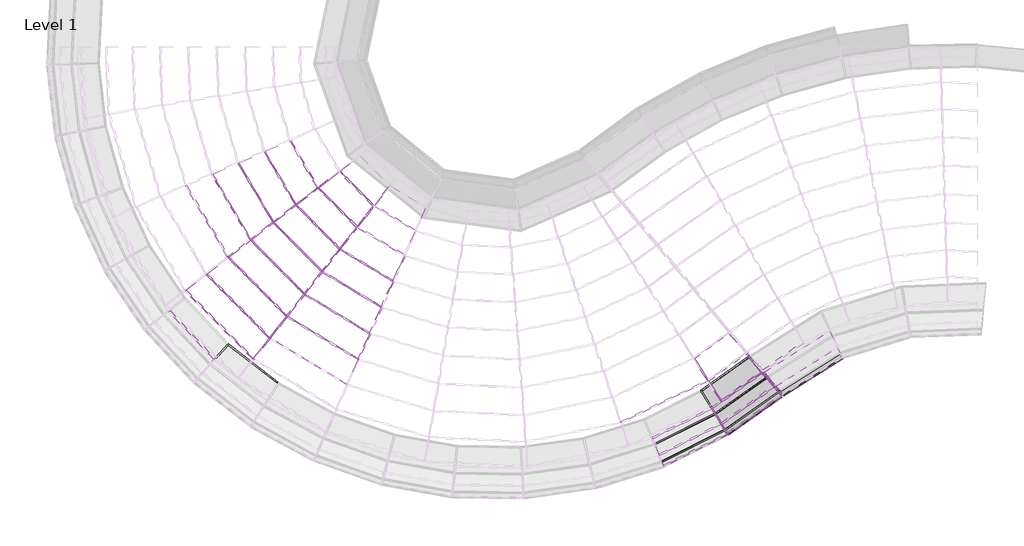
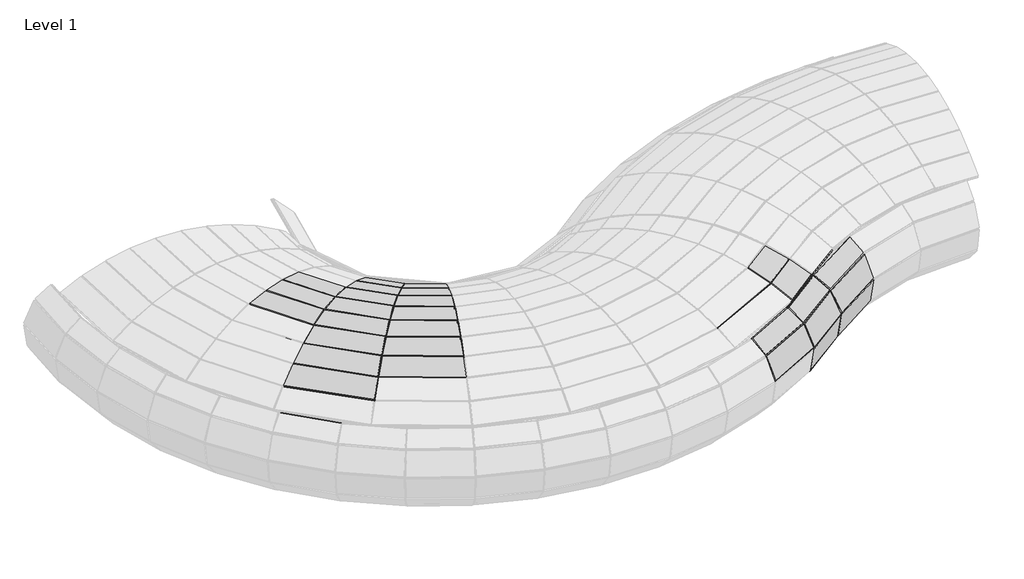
# One storey, part 4 of 23: 67 members, 30 plates.
"""IFC4 building model written with IfcOpenShell, lengths in millimetres."""

from ifc_helpers import new_model, si_unit, origin, place, context, project, spatial, transform, mapped, element, save
from components import member_d6b8231b, member_8c9da58c, member_391bee44, member_01ebdf2a, member_0cc87893, member_f8d2dede, member_1517f304, member_58eada01, member_30d53926, member_0cd36c09, member_e4cc2466, member_1b20e6ad, member_6c4aaba8, member_c876edb5, member_782630c7, member_0ea93e7c, member_01d9c279, member_398607d0, member_12c77cbe, member_5ccaa950, member_f3e77526, member_a8f221fd, member_9c203333, member_0c6c8d0c, member_86c07ba8, member_5c79e99c, member_0e8a41c0, member_5e0dc5e0, member_f532ae18, member_f7f5578b, member_ff5bcfe9, member_30a298c8, member_4c50ae0e, member_afb76c1e, member_c358399a, member_0167d042, member_de981218, member_5080b2ef, system_panel_glazed_7061526a, system_panel_glazed_17b066a7, system_panel_glazed_39e9cbfb, system_panel_glazed_65729b9c, system_panel_glazed_185472ef, system_panel_glazed_5abcd2ca, system_panel_glazed_d90a1b68, system_panel_glazed_7d733e69, system_panel_glazed_1f33159c, system_panel_glazed_b4bd1deb, system_panel_glazed_ffd0fcf6, system_panel_glazed_fd5b3178, system_panel_glazed_7646b435, system_panel_glazed_135ae039, system_panel_glazed_f8bcb114, system_panel_glazed_baaa3bb5, system_panel_glazed_aab04364, system_panel_glazed_96e6ccbe, system_panel_glazed_9094d4f4, system_panel_glazed_4ac93396

model = new_model("IFC4")

# Units and contexts
model_context = context("Model", 3, world=origin())
ifc_project = project(units=[si_unit("LENGTHUNIT", "METRE", prefix="MILLI")], contexts=[model_context])

# Site, building, storey
site = spatial("IfcSite", under=ifc_project)
building = spatial("IfcBuilding", under=site)
storey = spatial("IfcBuildingStorey", under=building, Name="Level 1", Elevation=0.0)

# Members
placement = place(None, origin())
member_shape = member_d6b8231b(model_context)
element("IfcMember", 1, ObjectType="Rectangular Mullion : 1\" Square", at=placement, inside=storey, context=model_context, shape_type="MappedRepresentation", body=[
    mapped(member_shape, transform((-5541.8903842, -8587.5198081, 0.0), x_axis=(0.8561160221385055, 0.5167836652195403, 0.0), y_axis=(0.14485326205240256, -0.23996733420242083, -0.9599131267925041), z_axis=(-0.49606742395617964, 0.8217970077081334, -0.280297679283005))),
])
element("IfcMember", 2, ObjectType="Rectangular Mullion : 1\" Square", at=placement, inside=storey, context=model_context, shape_type="MappedRepresentation", body=[
    mapped(member_shape, transform((-15607.0796623, -7600.7604451, 0.0), x_axis=(0.73945297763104, -0.6732082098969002, 0.0), y_axis=(-0.18869869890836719, -0.20726695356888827, -0.9599131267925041), z_axis=(0.6462213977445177, 0.7098106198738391, -0.2802976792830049))),
])
member_2_shape = member_8c9da58c(model_context)
element("IfcMember", 3, ObjectType="Rectangular Mullion : 1\" Square", at=placement, inside=storey, context=model_context, shape_type="MappedRepresentation", body=[
    mapped(member_2_shape, transform((-5239.4876826, -9088.487264, 170.8694653), x_axis=(0.8561160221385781, 0.51678366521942, 0.0), y_axis=(0.389037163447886, -0.6444881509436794, -0.6582439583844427), z_axis=(-0.3401697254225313, 0.5635331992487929, -0.7528046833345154))),
])
element("IfcMember", 4, ObjectType="Rectangular Mullion : 1\" Square", at=placement, inside=storey, context=model_context, shape_type="MappedRepresentation", body=[
    mapped(member_2_shape, transform((-5032.120218, -9432.0171023, 629.7792003), x_axis=(0.8561160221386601, 0.5167836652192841, 0.0), y_axis=(0.5109594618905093, -0.8464675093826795, -0.14971033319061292), z_axis=(-0.07736785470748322, 0.12816941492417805, -0.9887299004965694))),
])
member_3_shape = member_391bee44(model_context)
element("IfcMember", 5, ObjectType="Rectangular Mullion : 1\" Square", at=placement, inside=storey, context=model_context, shape_type="MappedRepresentation", body=[
    mapped(member_3_shape, transform((-4984.9567737, -9510.1491776, 1232.5089476), x_axis=(0.8561160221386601, 0.5167836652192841, 0.0), y_axis=(0.4723039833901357, -0.782429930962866, 0.40587233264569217), z_axis=(0.20974819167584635, -0.3474738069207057, -0.9139297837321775))),
])
member_4_shape = member_01ebdf2a(model_context)
element("IfcMember", 6, ObjectType="Rectangular Mullion : 1\" Square", at=placement, inside=storey, context=model_context, shape_type="MappedRepresentation", body=[
    mapped(member_4_shape, transform((-5112.8192714, -9298.3291449, 1789.6405438), x_axis=(0.8561160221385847, 0.5167836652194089, 0.0), y_axis=(0.30793072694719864, -0.5101253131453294, 0.8030883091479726), z_axis=(0.41502291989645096, -0.6875367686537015, -0.5958600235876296))),
])
member_5_shape = member_0cc87893(model_context)
element("IfcMember", 7, ObjectType="Rectangular Mullion : 1\" Square", at=placement, inside=storey, context=model_context, shape_type="MappedRepresentation", body=[
    mapped(member_5_shape, transform((-4236.0060384, -8187.1375727, 2085.6089632), x_axis=(-0.7968732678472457, -0.6008891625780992, -0.06265149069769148), y_axis=(0.31932702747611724, -0.5069562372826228, 0.8006407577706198), z_axis=(-0.5128579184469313, 0.6180029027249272, 0.5958600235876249))),
])
member_6_shape = member_f8d2dede(model_context)
element("IfcMember", 8, ObjectType="Rectangular Mullion : 1\" Square", at=placement, inside=storey, context=model_context, shape_type="MappedRepresentation", body=[
    mapped(member_6_shape, transform((-4137.7938837, -8305.4849639, 170.8694653), x_axis=(-0.7755966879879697, -0.6302403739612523, 0.03531074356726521), y_axis=(0.15057140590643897, -0.2390436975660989, -0.9592634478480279), z_axis=(0.6130073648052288, -0.7386847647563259, 0.28029767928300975))),
])
member_7_shape = member_1517f304(model_context)
element("IfcMember", 9, ObjectType="Rectangular Mullion : 1\" Square", at=placement, inside=storey, context=model_context, shape_type="MappedRepresentation", body=[
    mapped(member_7_shape, transform((-3881.5428644, -8614.2719944, 629.7792003), x_axis=(-0.8130968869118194, -0.5785149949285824, 0.06475996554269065), y_axis=(0.4027052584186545, -0.6393255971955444, -0.6550505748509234), z_axis=(0.4203592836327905, -0.5065404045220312, 0.7528046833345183))),
])
member_8_shape = member_58eada01(model_context)
element("IfcMember", 10, ObjectType="Rectangular Mullion : 1\" Square", at=placement, inside=storey, context=model_context, shape_type="MappedRepresentation", body=[
    mapped(member_8_shape, transform((-3823.2613945, -8684.5022011, 1232.5089476), x_axis=(-0.8444299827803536, -0.5353189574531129, 0.01927739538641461), y_axis=(0.5270649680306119, -0.8367562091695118, -0.1484640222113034), z_axis=(0.09560608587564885, -0.11520703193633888, 0.9887299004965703))),
])
member_9_shape = member_30d53926(model_context)
element("IfcMember", 11, ObjectType="Rectangular Mullion : 1\" Square", at=placement, inside=storey, context=model_context, shape_type="MappedRepresentation", body=[
    mapped(member_9_shape, transform((-3981.2654257, -8494.1045365, 1789.6405438), x_axis=(-0.8336003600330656, -0.5502464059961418, -0.04836664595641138), y_axis=(0.487780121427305, -0.774388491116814, 0.402980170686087), z_axis=(-0.25919296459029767, 0.3123321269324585, 0.9139297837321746))),
])
member_10_shape = member_0cd36c09(model_context)
element("IfcMember", 12, ObjectType="Rectangular Mullion : 1\" Square", at=placement, inside=storey, context=model_context, shape_type="MappedRepresentation", body=[
    mapped(member_10_shape, transform((-5393.2576617, -8373.1344113, 2378.3537392), x_axis=(0.8410448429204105, 0.5409654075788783, 0.0), y_axis=(0.20144139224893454, -0.31318313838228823, 0.9280828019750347), z_axis=(0.5020606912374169, -0.7805592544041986, -0.3723738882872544))),
])
element("IfcMember", 13, ObjectType="Rectangular Mullion : 1\" Square", at=placement, inside=storey, context=model_context, shape_type="MappedRepresentation", body=[
    mapped(member_10_shape, transform((-14173.1925136, -4633.0303482, 2806.2019711), x_axis=(0.6108312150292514, -0.79176083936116, 0.0), y_axis=(0.16904323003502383, 0.13041423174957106, 0.9769424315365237), z_axis=(-0.7735047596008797, -0.5967469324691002, 0.213502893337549))),
])
element("IfcMember", 14, ObjectType="Rectangular Mullion : 1\" Square", at=placement, inside=storey, context=model_context, shape_type="MappedRepresentation", body=[
    mapped(member_10_shape, transform((-13701.6640122, -4269.2534182, 2676.0506073), x_axis=(0.6108312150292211, -0.7917608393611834, 0.0), y_axis=(0.25993569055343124, 0.20053635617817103, 0.9445732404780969), z_axis=(-0.7478761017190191, -0.5769748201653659, 0.3283007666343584))),
])
element("IfcMember", 15, ObjectType="Rectangular Mullion : 1\" Square", at=placement, inside=storey, context=model_context, shape_type="MappedRepresentation", body=[
    mapped(member_10_shape, transform((-13238.0015411, -5576.7055727, 2806.2019711), x_axis=(0.786212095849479, -0.617956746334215, 0.0), y_axis=(0.131935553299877, 0.16785855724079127, 0.9769424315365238), z_axis=(-0.6037081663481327, -0.7680839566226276, 0.21350289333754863))),
])
element("IfcMember", 16, ObjectType="Rectangular Mullion : 1\" Square", at=placement, inside=storey, context=model_context, shape_type="MappedRepresentation", body=[
    mapped(member_10_shape, transform((-12869.9810429, -5108.4815927, 2676.0506073), x_axis=(0.7862120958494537, -0.6179567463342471, 0.0), y_axis=(0.20287567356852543, 0.258114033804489, 0.9445732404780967), z_axis=(-0.5837054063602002, -0.7426349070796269, 0.3283007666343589))),
])
element("IfcMember", 17, ObjectType="Rectangular Mullion : 1\" Square", at=placement, inside=storey, context=model_context, shape_type="MappedRepresentation", body=[
    mapped(member_10_shape, transform((-12100.0944241, -6262.4697286, 2806.2019711), x_axis=(0.9136605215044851, -0.40647810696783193, 0.0), y_axis=(0.08678425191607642, 0.19506916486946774, 0.9769424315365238), z_axis=(-0.3971057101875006, -0.8925937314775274, 0.2135028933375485))),
])
element("IfcMember", 18, ObjectType="Rectangular Mullion : 1\" Square", at=placement, inside=storey, context=model_context, shape_type="MappedRepresentation", body=[
    mapped(member_10_shape, transform((-15613.899351, -5744.5133419, 2763.3769688), x_axis=(0.6108312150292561, -0.7917608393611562, 0.0), y_axis=(-0.11273888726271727, -0.08697630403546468, 0.9898106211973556), z_axis=(-0.7836932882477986, -0.6046072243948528, -0.1423900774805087))),
])
element("IfcMember", 19, ObjectType="Rectangular Mullion : 1\" Square", at=placement, inside=storey, context=model_context, shape_type="MappedRepresentation", body=[
    mapped(member_10_shape, transform((-15075.8944528, -7915.0142758, 2378.3537392), x_axis=(0.7862120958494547, -0.617956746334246, 0.0), y_axis=(-0.2301109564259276, -0.29276485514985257, 0.9280828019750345), z_axis=(-0.5735150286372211, -0.7296699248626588, -0.37237388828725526))),
])
element("IfcMember", 20, ObjectType="Rectangular Mullion : 1\" Square", at=placement, inside=storey, context=model_context, shape_type="MappedRepresentation", body=[
    mapped(member_10_shape, transform((-14726.2796914, -7470.2074896, 2605.3528615), x_axis=(0.7862120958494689, -0.617956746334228, 0.0), y_axis=(-0.160190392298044, -0.20380653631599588, 0.9658167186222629), z_axis=(-0.5968329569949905, -0.7593367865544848, -0.2592258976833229))),
])
element("IfcMember", 21, ObjectType="Rectangular Mullion : 1\" Square", at=placement, inside=storey, context=model_context, shape_type="MappedRepresentation", body=[
    mapped(member_10_shape, transform((-14362.4503208, -7007.3157845, 2763.3769688), x_axis=(0.7862120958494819, -0.6179567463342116, 0.0), y_axis=(-0.08799090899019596, -0.11194880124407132, 0.9898106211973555), z_axis=(-0.6116601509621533, -0.7782010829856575, -0.14239007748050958))),
])
element("IfcMember", 22, ObjectType="Rectangular Mullion : 1\" Square", at=placement, inside=storey, context=model_context, shape_type="MappedRepresentation", body=[
    mapped(member_10_shape, transform((-12839.7316464, -7924.9881242, 2763.3769688), x_axis=(0.9136605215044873, -0.4064781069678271, 0.0), y_axis=(-0.0578784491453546, -0.13009619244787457, 0.9898106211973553), z_axis=(-0.4023363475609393, -0.9043508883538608, -0.14239007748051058))),
])
element("IfcMember", 23, ObjectType="Rectangular Mullion : 1\" Square", at=placement, inside=storey, context=model_context, shape_type="MappedRepresentation", body=[
    mapped(member_10_shape, transform((-15136.1599225, -5375.9447779, 2850.17796), x_axis=(0.6108312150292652, -0.7917608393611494, 0.0), y_axis=(-0.018629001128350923, -0.014371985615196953, 0.9997231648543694), z_axis=(-0.7915416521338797, -0.6106621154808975, -0.023528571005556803))),
])
element("IfcMember", 24, ObjectType="Rectangular Mullion : 1\" Square", at=placement, inside=storey, context=model_context, shape_type="MappedRepresentation", body=[
    mapped(member_10_shape, transform((-13989.5822928, -6532.9244043, 2850.17796), x_axis=(0.7862120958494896, -0.6179567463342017, 0.0), y_axis=(-0.014539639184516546, -0.018498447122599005, 0.9997231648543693), z_axis=(-0.6177856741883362, -0.785994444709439, -0.023528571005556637))),
])
element("IfcMember", 25, ObjectType="Rectangular Mullion : 1\" Square", at=placement, inside=storey, context=model_context, shape_type="MappedRepresentation", body=[
    mapped(member_10_shape, transform((-12594.4674089, -7373.6958226, 2850.17796), x_axis=(0.9136605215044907, -0.40647810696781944, 0.0), y_axis=(-0.009563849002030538, -0.02149712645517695, 0.9997231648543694), z_axis=(-0.4063655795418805, -0.9134075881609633, -0.023528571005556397))),
])
element("IfcMember", 26, ObjectType="Rectangular Mullion : 1\" Square", at=placement, inside=storey, context=model_context, shape_type="MappedRepresentation", body=[
    mapped(member_10_shape, transform((-14653.6361314, -5003.6851523, 2864.5209769), x_axis=(0.610831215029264, -0.7917608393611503, 0.0), y_axis=(0.07574590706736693, 0.05843679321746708, 0.9954133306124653), z_axis=(-0.7881292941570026, -0.6080295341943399, 0.09566766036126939))),
])
element("IfcMember", 27, ObjectType="Rectangular Mullion : 1\" Square", at=placement, inside=storey, context=model_context, shape_type="MappedRepresentation", body=[
    mapped(member_10_shape, transform((-13612.9801458, -6053.7821909, 2864.5209769), x_axis=(0.7862120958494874, -0.6179567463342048, 0.0), y_axis=(0.05911847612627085, 0.07521507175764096, 0.995413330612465), z_axis=(-0.6151223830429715, -0.7826060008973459, 0.09566766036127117))),
])
element("IfcMember", 28, ObjectType="Rectangular Mullion : 1\" Square", at=placement, inside=storey, context=model_context, shape_type="MappedRepresentation", body=[
    mapped(member_10_shape, transform((-12346.7469516, -6816.8825569, 2864.5209769), x_axis=(0.9136605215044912, -0.40647810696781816, 0.0), y_axis=(0.038886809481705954, 0.08740776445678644, 0.995413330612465), z_axis=(-0.40461372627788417, -0.9094698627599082, 0.09566766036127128))),
])
member_11_shape = member_e4cc2466(model_context)
element("IfcMember", 29, ObjectType="Rectangular Mullion : 1\" Square", at=placement, inside=storey, context=model_context, shape_type="MappedRepresentation", body=[
    mapped(member_11_shape, transform((-5103.9991251, -8822.8478257, 2085.6089632), x_axis=(0.8410448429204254, 0.5409654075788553, 0.0), y_axis=(0.2597847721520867, -0.4038902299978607, 0.8771456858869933), z_axis=(0.4745054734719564, -0.7377188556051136, -0.4802243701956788))),
])
member_12_shape = member_1b20e6ad(model_context)
element("IfcMember", 30, ObjectType="Rectangular Mullion : 1\" Square", at=placement, inside=storey, context=model_context, shape_type="MappedRepresentation", body=[
    mapped(member_12_shape, transform((-4215.1839746, -8172.5910384, 2085.6089632), x_axis=(0.5019403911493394, -0.7184828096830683, -0.4814958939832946), y_axis=(0.27575183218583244, -0.39471410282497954, 0.8764483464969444), z_axis=(-0.8197662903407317, -0.5726982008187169, 0.0))),
])
member_13_shape = member_6c4aaba8(model_context)
element("IfcMember", 31, ObjectType="Rectangular Mullion : 1\" Square", at=placement, inside=storey, context=model_context, shape_type="MappedRepresentation", body=[
    mapped(member_13_shape, transform((-15084.8340664, -7905.9935602, 2378.3537392), x_axis=(0.6432189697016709, 0.6374360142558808, 0.42419887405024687), y_axis=(-0.30130530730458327, -0.2985963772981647, 0.9055690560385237), z_axis=(0.7039065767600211, -0.7102925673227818, 0.0))),
])
element("IfcMember", 32, ObjectType="Rectangular Mullion : 1\" Square", at=placement, inside=storey, context=model_context, shape_type="MappedRepresentation", body=[
    mapped(member_13_shape, transform((-5404.7053993, -8378.6334389, 2378.3537392), x_axis=(-0.3921062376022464, 0.8162769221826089, 0.4241988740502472), y_axis=(0.18367569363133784, -0.382371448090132, 0.9055690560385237), z_axis=(0.9013966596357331, 0.43299429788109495, 0.0))),
])
member_14_shape = member_c876edb5(model_context)
element("IfcMember", 33, ObjectType="Rectangular Mullion : 1\" Square", at=placement, inside=storey, context=model_context, shape_type="MappedRepresentation", body=[
    mapped(member_14_shape, transform((-13708.1208201, -4258.3172566, 2676.0506073), x_axis=(0.8291768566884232, 0.48955345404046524, -0.2698205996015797), y_axis=(0.23234658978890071, 0.13717951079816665, 0.9629106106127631), z_axis=(0.5084100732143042, -0.8611150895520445, 0.0))),
])
element("IfcMember", 34, ObjectType="Rectangular Mullion : 1\" Square", at=placement, inside=storey, context=model_context, shape_type="MappedRepresentation", body=[
    mapped(member_14_shape, transform((-12878.9206564, -5099.4608771, 2676.0506073), x_axis=(0.6839482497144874, 0.6777991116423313, -0.26982059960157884), y_axis=(0.19165156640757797, 0.18992849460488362, 0.9629106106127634), z_axis=(0.7039065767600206, -0.7102925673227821, 0.0))),
])
member_15_shape = member_782630c7(model_context)
element("IfcMember", 35, ObjectType="Rectangular Mullion : 1\" Square", at=placement, inside=storey, context=model_context, shape_type="MappedRepresentation", body=[
    mapped(member_15_shape, transform((-12523.0938407, -4646.7506378, 2475.91846), x_axis=(0.6564501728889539, 0.650548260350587, -0.3819163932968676), y_axis=(0.2712723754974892, 0.26883346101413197, 0.9241968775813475), z_axis=(0.7039065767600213, -0.7102925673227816, 0.0))),
])
member_16_shape = member_0ea93e7c(model_context)
element("IfcMember", 36, ObjectType="Rectangular Mullion : 1\" Square", at=placement, inside=storey, context=model_context, shape_type="MappedRepresentation", body=[
    mapped(member_16_shape, transform((-15620.3561589, -5733.5771802, 2763.3769688), x_axis=(0.8438153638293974, 0.498196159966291, 0.19943976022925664), y_axis=(-0.1717405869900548, -0.10139718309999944, 0.97991008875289), z_axis=(0.5084100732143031, -0.8611150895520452, 0.0))),
])
element("IfcMember", 37, ObjectType="Rectangular Mullion : 1\" Square", at=placement, inside=storey, context=model_context, shape_type="MappedRepresentation", body=[
    mapped(member_16_shape, transform((-14371.3899343, -6998.2950689, 2763.3769688), x_axis=(0.6960228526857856, 0.6897651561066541, 0.1994397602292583), y_axis=(-0.14166057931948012, -0.1403869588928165, 0.9799100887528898), z_axis=(0.7039065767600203, -0.7102925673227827, 0.0))),
])
element("IfcMember", 38, ObjectType="Rectangular Mullion : 1\" Square", at=placement, inside=storey, context=model_context, shape_type="MappedRepresentation", body=[
    mapped(member_16_shape, transform((-12850.6090502, -7918.4328144, 2763.3769688), x_axis=(0.505796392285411, 0.8392817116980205, 0.19943976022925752), y_axis=(-0.1029440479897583, -0.17081785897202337, 0.9799100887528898), z_axis=(0.8564884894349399, -0.516166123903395, 0.0))),
])
member_17_shape = member_01d9c279(model_context)
element("IfcMember", 39, ObjectType="Rectangular Mullion : 1\" Square", at=placement, inside=storey, context=model_context, shape_type="MappedRepresentation", body=[
    mapped(member_17_shape, transform((-15142.6167304, -5365.0086162, 2850.17796), x_axis=(0.8582013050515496, 0.5066897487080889, 0.08219500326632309), y_axis=(-0.07077935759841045, -0.04178876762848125, 0.9966162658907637), z_axis=(0.5084100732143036, -0.8611150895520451, 0.0))),
])
element("IfcMember", 40, ObjectType="Rectangular Mullion : 1\" Square", at=placement, inside=storey, context=model_context, shape_type="MappedRepresentation", body=[
    mapped(member_17_shape, transform((-13998.5219063, -6523.9036887, 2850.17796), x_axis=(0.7078891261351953, 0.7015247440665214, 0.08219500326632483), y_axis=(-0.05838249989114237, -0.0578576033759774, 0.9966162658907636), z_axis=(0.7039065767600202, -0.7102925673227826, 0.0))),
])
element("IfcMember", 41, ObjectType="Rectangular Mullion : 1\" Square", at=placement, inside=storey, context=model_context, shape_type="MappedRepresentation", body=[
    mapped(member_17_shape, transform((-12605.3448127, -7367.1405129, 2850.17796), x_axis=(0.514419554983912, 0.8535903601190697, 0.08219500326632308), y_axis=(-0.04242627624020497, -0.07039907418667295, 0.9966162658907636), z_axis=(0.8564884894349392, -0.5161661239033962, 0.0))),
])
member_18_shape = member_398607d0(model_context)
element("IfcMember", 42, ObjectType="Rectangular Mullion : 1\" Square", at=placement, inside=storey, context=model_context, shape_type="MappedRepresentation", body=[
    mapped(member_18_shape, transform((-14660.0929393, -4992.7489906, 2864.5209769), x_axis=(0.8605516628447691, 0.5080774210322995, -0.03616863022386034), y_axis=(0.03114535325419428, 0.018388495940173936, 0.9993457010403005), z_axis=(0.5084100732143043, -0.8611150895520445, 0.0))),
])
element("IfcMember", 43, ObjectType="Rectangular Mullion : 1\" Square", at=placement, inside=storey, context=model_context, shape_type="MappedRepresentation", body=[
    mapped(member_18_shape, transform((-13621.9197593, -6044.7614752, 2864.5209769), x_axis=(0.7098278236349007, 0.7034460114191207, -0.03616863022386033), y_axis=(0.025690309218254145, 0.02545933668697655, 0.9993457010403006), z_axis=(0.7039065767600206, -0.7102925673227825, 0.0))),
])
element("IfcMember", 44, ObjectType="Rectangular Mullion : 1\" Square", at=placement, inside=storey, context=model_context, shape_type="MappedRepresentation", body=[
    mapped(member_18_shape, transform((-12357.6243554, -6810.3272471, 2864.5209769), x_axis=(0.5158283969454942, 0.8559280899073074, -0.03616863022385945), y_axis=(0.01866902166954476, 0.030978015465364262, 0.9993457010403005), z_axis=(0.8564884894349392, -0.5161661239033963, 0.0))),
])
member_19_shape = member_12c77cbe(model_context)
element("IfcMember", 45, ObjectType="Rectangular Mullion : 1\" Square", at=placement, inside=storey, context=model_context, shape_type="MappedRepresentation", body=[
    mapped(member_19_shape, transform((-14735.2193049, -7461.186774, 2605.3528615), x_axis=(0.674376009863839, 0.6683129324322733, 0.31396627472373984), y_axis=(-0.22300791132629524, -0.22100292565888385, 0.9494341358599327), z_axis=(0.7039065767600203, -0.7102925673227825, 0.0))),
])
member_20_shape = member_5ccaa950(model_context)
element("IfcMember", 46, ObjectType="Rectangular Mullion : 1\" Square", at=placement, inside=storey, context=model_context, shape_type="MappedRepresentation", body=[
    mapped(member_20_shape, transform((-14179.6493216, -4622.0941866, 2806.2019711), x_axis=(0.8508370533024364, 0.5023418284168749, -0.15404218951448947), y_axis=(0.1326480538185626, 0.07831660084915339, 0.9880642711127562), z_axis=(0.5084100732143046, -0.8611150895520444, 0.0))),
])
element("IfcMember", 47, ObjectType="Rectangular Mullion : 1\" Square", at=placement, inside=storey, context=model_context, shape_type="MappedRepresentation", body=[
    mapped(member_20_shape, transform((-13246.9411546, -5567.6848571, 2806.2019711), x_axis=(0.7018147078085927, 0.6955049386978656, -0.15404218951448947), y_axis=(0.10941502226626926, 0.10843131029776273, 0.9880642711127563), z_axis=(0.7039065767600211, -0.7102925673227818, 0.0))),
])
element("IfcMember", 48, ObjectType="Rectangular Mullion : 1\" Square", at=placement, inside=storey, context=model_context, shape_type="MappedRepresentation", body=[
    mapped(member_20_shape, transform((-12110.9718279, -6255.9144188, 2806.2019711), x_axis=(0.5100053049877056, 0.8462656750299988, -0.15404218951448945), y_axis=(0.07951135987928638, 0.1319353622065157, 0.9880642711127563), z_axis=(0.8564884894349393, -0.5161661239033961, 0.0))),
])
member_21_shape = member_f3e77526(model_context)
element("IfcMember", 49, ObjectType="Rectangular Mullion : 1\" Square", at=placement, inside=storey, context=model_context, shape_type="MappedRepresentation", body=[
    mapped(member_21_shape, transform((-5093.7531788, -8815.3437877, 2085.6089632), x_axis=(0.5180587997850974, -0.7073528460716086, -0.4809023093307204), y_axis=(0.28415032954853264, -0.3879763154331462, 0.8767741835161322), z_axis=(-0.8067674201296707, -0.5908691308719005, 0.0))),
])
member_22_shape = member_a8f221fd(model_context)
element("IfcMember", 50, ObjectType="Rectangular Mullion : 1\" Square", at=placement, inside=storey, context=model_context, shape_type="MappedRepresentation", body=[
    mapped(member_22_shape, transform((-4236.0060384, -8187.1375727, 2085.6089632), x_axis=(0.7781316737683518, 0.6275822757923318, 0.02552617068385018), y_axis=(0.28415032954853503, -0.38797631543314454, 0.8767741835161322), z_axis=(0.5601514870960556, -0.6749924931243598, -0.48022437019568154))),
])
member_23_shape = member_9c203333(model_context)
element("IfcMember", 51, ObjectType="Rectangular Mullion : 1\" Square", at=placement, inside=storey, context=model_context, shape_type="MappedRepresentation", body=[
    mapped(member_23_shape, transform((-15597.0346036, -7608.5313392, 0.0), x_axis=(0.5872043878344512, 0.7590506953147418, -0.28112817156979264), y_axis=(-0.17201710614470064, -0.2223581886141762, -0.9596702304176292), z_axis=(-0.790949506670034, 0.6118814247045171, 0.0))),
])
member_24_shape = member_0c6c8d0c(model_context)
element("IfcMember", 52, ObjectType="Rectangular Mullion : 1\" Square", at=placement, inside=storey, context=model_context, shape_type="MappedRepresentation", body=[
    mapped(member_24_shape, transform((-5531.5385686, -8580.1625048, 0.0), x_axis=(-0.5559696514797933, 0.7822560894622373, -0.28102163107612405), y_axis=(0.16280010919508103, -0.22906174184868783, -0.9597014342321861), z_axis=(-0.8151035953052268, -0.579315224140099, 0.0))),
])
member_25_shape = member_86c07ba8(model_context)
element("IfcMember", 53, ObjectType="Rectangular Mullion : 1\" Square", at=placement, inside=storey, context=model_context, shape_type="MappedRepresentation", body=[
    mapped(member_25_shape, transform((-5250.8506518, -9094.1593827, 170.8694653), x_axis=(0.37696829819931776, -0.7551815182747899, 0.536279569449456), y_axis=(0.2395150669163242, -0.4798211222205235, -0.8440404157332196), z_axis=(0.8947219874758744, 0.4466235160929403, 0.0))),
])
member_26_shape = member_5c79e99c(model_context)
element("IfcMember", 54, ObjectType="Rectangular Mullion : 1\" Square", at=placement, inside=storey, context=model_context, shape_type="MappedRepresentation", body=[
    mapped(member_26_shape, transform((-4158.497515, -8320.1995705, 170.8694653), x_axis=(0.4891002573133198, -0.6881700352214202, 0.535913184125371), y_axis=(0.31046266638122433, -0.4368247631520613, -0.8442730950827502), z_axis=(0.8151035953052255, 0.5793152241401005, 0.0))),
])
member_27_shape = member_0e8a41c0(model_context)
element("IfcMember", 55, ObjectType="Rectangular Mullion : 1\" Square", at=placement, inside=storey, context=model_context, shape_type="MappedRepresentation", body=[
    mapped(member_27_shape, transform((-5043.4831872, -9437.6892209, 629.7792003), x_axis=(0.18859937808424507, -0.37782159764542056, 0.9064662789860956), y_axis=(0.4048491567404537, -0.8110353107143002, -0.42227820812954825), z_axis=(0.8947219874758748, 0.44662351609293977, 0.0))),
])
member_28_shape = member_5e0dc5e0(model_context)
element("IfcMember", 56, ObjectType="Rectangular Mullion : 1\" Square", at=placement, inside=storey, context=model_context, shape_type="MappedRepresentation", body=[
    mapped(member_28_shape, transform((-3902.2464957, -8628.9866011, 629.7792003), x_axis=(0.24470601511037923, -0.34430435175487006, 0.906406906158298), y_axis=(0.5250953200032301, -0.7388155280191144, -0.42240563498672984), z_axis=(0.815103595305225, 0.5793152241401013, 0.0))),
])
member_29_shape = member_f532ae18(model_context)
element("IfcMember", 57, ObjectType="Rectangular Mullion : 1\" Square", at=placement, inside=storey, context=model_context, shape_type="MappedRepresentation", body=[
    mapped(member_29_shape, transform((-4996.319743, -9515.8212963, 1232.5089476), x_axis=(-0.059829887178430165, 0.11985736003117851, 0.9909866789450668), y_axis=(0.4425979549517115, -0.8866575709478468, 0.13396044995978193), z_axis=(0.8947219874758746, 0.4466235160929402, 0.0))),
])
member_30_shape = member_f7f5578b(model_context)
element("IfcMember", 58, ObjectType="Rectangular Mullion : 1\" Square", at=placement, inside=storey, context=model_context, shape_type="MappedRepresentation", body=[
    mapped(member_30_shape, transform((-3843.9650258, -8699.2168078, 1232.5089476), x_axis=(-0.07762778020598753, 0.10922323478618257, 0.9909814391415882), y_axis=(0.5740906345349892, -0.8077525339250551, 0.13399920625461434), z_axis=(0.8151035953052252, 0.5793152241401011, 0.0))),
])
member_31_shape = member_ff5bcfe9(model_context)
element("IfcMember", 59, ObjectType="Rectangular Mullion : 1\" Square", at=placement, inside=storey, context=model_context, shape_type="MappedRepresentation", body=[
    mapped(member_31_shape, transform((-5124.1822406, -9304.0012636, 1789.6405438), x_axis=(-0.2891436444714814, 0.5792421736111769, 0.7621512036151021), y_axis=(0.3403946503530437, -0.681913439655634, 0.6473990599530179), z_axis=(0.8947219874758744, 0.44662351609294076, 0.0))),
])
member_32_shape = member_30a298c8(model_context)
element("IfcMember", 60, ObjectType="Rectangular Mullion : 1\" Square", at=placement, inside=storey, context=model_context, shape_type="MappedRepresentation", body=[
    mapped(member_32_shape, transform((-4001.969057, -8508.8191432, 1789.6405438), x_axis=(-0.3751633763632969, 0.5278594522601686, 0.761982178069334), y_axis=(0.4414278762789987, -0.6210944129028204, 0.6475979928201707), z_axis=(0.8151035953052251, 0.5793152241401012, 0.0))),
])
member_33_shape = member_4c50ae0e(model_context)
element("IfcMember", 61, ObjectType="Rectangular Mullion : 1\" Square", at=placement, inside=storey, context=model_context, shape_type="MappedRepresentation", body=[
    mapped(member_33_shape, transform((-4137.7938837, -8305.4849639, 170.8694653), x_axis=(0.795389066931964, 0.6049641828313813, -0.037075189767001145), y_axis=(0.4366397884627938, -0.6143575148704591, -0.6571990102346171), z_axis=(-0.4203592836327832, 0.5065404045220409, -0.7528046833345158))),
])
member_34_shape = member_afb76c1e(model_context)
element("IfcMember", 62, ObjectType="Rectangular Mullion : 1\" Square", at=placement, inside=storey, context=model_context, shape_type="MappedRepresentation", body=[
    mapped(member_34_shape, transform((-3881.5428644, -8614.2719944, 629.7792003), x_axis=(0.8140849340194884, 0.5806404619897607, -0.0110622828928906), y_axis=(0.5728221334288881, -0.8059677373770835, -0.149301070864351), z_axis=(-0.09560608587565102, 0.11520703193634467, -0.9887299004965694))),
])
member_35_shape = member_c358399a(model_context)
element("IfcMember", 63, ObjectType="Rectangular Mullion : 1\" Square", at=placement, inside=storey, context=model_context, shape_type="MappedRepresentation", body=[
    mapped(member_35_shape, transform((-3823.2613945, -8684.5022011, 1232.5089476), x_axis=(0.8076137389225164, 0.589059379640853, 0.027732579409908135), y_axis=(0.5296971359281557, -0.7452903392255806, 0.4049237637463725), z_axis=(0.2591929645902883, -0.31233212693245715, -0.9139297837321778))),
])
member_36_shape = member_0167d042(model_context)
element("IfcMember", 64, ObjectType="Rectangular Mullion : 1\" Square", at=placement, inside=storey, context=model_context, shape_type="MappedRepresentation", body=[
    mapped(member_36_shape, transform((-3981.2654257, -8494.1045365, 1789.6405438), x_axis=(0.7857412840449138, 0.6175170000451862, 0.035824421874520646), y_axis=(0.345814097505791, -0.4865646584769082, 0.8022888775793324), z_axis=(0.5128579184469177, -0.6180029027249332, -0.5958600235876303))),
])
member_37_shape = member_de981218(model_context)
element("IfcMember", 65, ObjectType="Rectangular Mullion : 1\" Square", at=placement, inside=storey, context=model_context, shape_type="MappedRepresentation", body=[
    mapped(member_37_shape, transform((-4256.7096697, -8201.8521794, 2085.6089632), x_axis=(-0.46477816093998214, 0.6539485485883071, 0.5969359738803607), y_axis=(0.3458140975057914, -0.4865646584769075, 0.8022888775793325), z_axis=(0.8151035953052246, 0.5793152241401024, 0.0))),
])
member_38_shape = member_5080b2ef(model_context)
element("IfcMember", 66, ObjectType="Rectangular Mullion : 1\" Square", at=placement, inside=storey, context=model_context, shape_type="MappedRepresentation", body=[
    mapped(member_38_shape, transform((-15906.1595532, -7910.4658742, 2085.6089632), x_axis=(0.5857596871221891, 0.5480549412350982, 0.5970941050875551), y_axis=(-0.4360087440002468, -0.4079433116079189, 0.8021711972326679), z_axis=(0.6832144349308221, -0.7302178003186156, 0.0))),
])
element("IfcMember", 67, ObjectType="Rectangular Mullion : 1\" Square", at=placement, inside=storey, context=model_context, shape_type="MappedRepresentation", body=[
    mapped(member_38_shape, transform((-5330.3274303, -8962.4962748, 2085.6089632), x_axis=(-0.35826852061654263, 0.7177202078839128, 0.5970941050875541), y_axis=(0.2666762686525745, -0.5342332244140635, 0.8021711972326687), z_axis=(0.8947219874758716, 0.44662351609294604, 0.0))),
])

# Plates
system_panel_glazed_shape = system_panel_glazed_7061526a(model_context)
element("IfcPlate", 68, ObjectType="System Panel : Glazed", at=placement, inside=storey, context=model_context, shape_type="MappedRepresentation", body=[
    mapped(system_panel_glazed_shape, transform((-3221.7676452, -8200.9140733, 642.3384564), x_axis=(0.8461332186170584, 0.5329714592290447, 0.0), y_axis=(-0.5270649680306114, 0.8367562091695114, 0.14846402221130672), z_axis=(0.07912708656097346, -0.12562034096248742, 0.9889178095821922))),
])
system_panel_glazed_2_shape = system_panel_glazed_17b066a7(model_context)
element("IfcPlate", 69, ObjectType="System Panel : Glazed", at=placement, inside=storey, context=model_context, shape_type="MappedRepresentation", body=[
    mapped(system_panel_glazed_2_shape, transform((-3177.2670222, -8271.5478297, 1244.1320982), x_axis=(0.8461332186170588, 0.532971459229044, 0.0), y_axis=(-0.48778012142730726, 0.7743884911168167, -0.40298017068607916), z_axis=(-0.2147769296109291, 0.34097490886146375, 0.915208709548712))),
])
system_panel_glazed_3_shape = system_panel_glazed_39e9cbfb(model_context)
element("IfcPlate", 70, ObjectType="System Panel : Glazed", at=placement, inside=storey, context=model_context, shape_type="MappedRepresentation", body=[
    mapped(system_panel_glazed_3_shape, transform((-3310.6816383, -8059.6928514, 1797.2496815), x_axis=(0.8461332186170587, 0.5329714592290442, 0.0), y_axis=(-0.3193270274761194, 0.5069562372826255, -0.8006407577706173), z_axis=(-0.42671867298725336, 0.6774487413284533, 0.5991447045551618))),
])
system_panel_glazed_4_shape = system_panel_glazed_65729b9c(model_context)
element("IfcPlate", 71, ObjectType="System Panel : Glazed", at=placement, inside=storey, context=model_context, shape_type="MappedRepresentation", body=[
    mapped(system_panel_glazed_4_shape, transform((-4688.2914805, -8490.7832527, 2097.8238818), x_axis=(0.8067674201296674, 0.5908691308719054, 0.0), y_axis=(-0.28415032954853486, 0.38797631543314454, -0.8767741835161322), z_axis=(-0.5180587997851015, 0.7073528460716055, 0.48090230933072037))),
])
system_panel_glazed_5_shape = system_panel_glazed_185472ef(model_context)
element("IfcPlate", 72, ObjectType="System Panel : Glazed", at=placement, inside=storey, context=model_context, shape_type="MappedRepresentation", body=[
    mapped(system_panel_glazed_5_shape, transform((-15793.5862167, -7174.0847737, 2383.1142391), x_axis=(0.7039065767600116, -0.7102925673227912, 0.0), y_axis=(0.26624784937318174, 0.2638541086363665, -0.9270885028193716), z_axis=(0.6585040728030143, 0.6525836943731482, 0.37484251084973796))),
])
system_panel_glazed_6_shape = system_panel_glazed_5abcd2ca(model_context)
element("IfcPlate", 73, ObjectType="System Panel : Glazed", at=placement, inside=storey, context=model_context, shape_type="MappedRepresentation", body=[
    mapped(system_panel_glazed_6_shape, transform((-4997.4596896, -8068.6495661, 2383.0903636), x_axis=(0.8067674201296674, 0.5908691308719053, 0.0), y_axis=(-0.2203720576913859, 0.30089403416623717, -0.927846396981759), z_axis=(-0.5482357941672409, 0.7485562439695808, 0.3729625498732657))),
])
system_panel_glazed_7_shape = system_panel_glazed_d90a1b68(model_context)
element("IfcPlate", 74, ObjectType="System Panel : Glazed", at=placement, inside=storey, context=model_context, shape_type="MappedRepresentation", body=[
    mapped(system_panel_glazed_7_shape, transform((-15394.4609872, -6778.5479387, 2608.668686), x_axis=(0.7039065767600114, -0.7102925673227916, 0.0), y_axis=(0.18544924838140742, 0.18378193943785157, -0.9653148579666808), z_axis=(0.6856559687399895, 0.6794914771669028, 0.2610885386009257))),
])
element("IfcPlate", 75, ObjectType="System Panel : Glazed", at=placement, inside=storey, context=model_context, shape_type="MappedRepresentation", body=[
    mapped(system_panel_glazed_7_shape, transform((-13896.3371365, -7956.0619267, 2608.668686), x_axis=(0.8564884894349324, -0.5161661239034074, 0.0), y_axis=(0.13476505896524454, 0.2236193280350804, -0.9653148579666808), z_axis=(0.49826282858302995, 0.8267810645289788, 0.26108853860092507))),
])
system_panel_glazed_8_shape = system_panel_glazed_7d733e69(model_context)
element("IfcPlate", 76, ObjectType="System Panel : Glazed", at=placement, inside=storey, context=model_context, shape_type="MappedRepresentation", body=[
    mapped(system_panel_glazed_8_shape, transform((-14979.2474364, -6367.0674268, 2765.1989775), x_axis=(0.7039065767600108, -0.7102925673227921, 0.0), y_axis=(0.10190230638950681, 0.10098613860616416, -0.9896553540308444), z_axis=(0.7029448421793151, 0.6966249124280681, 0.1434652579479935))),
])
element("IfcPlate", 77, ObjectType="System Panel : Glazed", at=placement, inside=storey, context=model_context, shape_type="MappedRepresentation", body=[
    mapped(system_panel_glazed_8_shape, transform((-13594.6034862, -7455.3870734, 2765.1989775), x_axis=(0.8564884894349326, -0.516166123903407, 0.0), y_axis=(0.07405190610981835, 0.12287634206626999, -0.9896553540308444), z_axis=(0.510826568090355, 0.8476284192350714, 0.1434652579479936))),
])
system_panel_glazed_9_shape = system_panel_glazed_1f33159c(model_context)
element("IfcPlate", 78, ObjectType="System Panel : Glazed", at=placement, inside=storey, context=model_context, shape_type="MappedRepresentation", body=[
    mapped(system_panel_glazed_9_shape, transform((-15539.2957159, -4668.1642606, 2850.4790751), x_axis=(0.5084100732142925, -0.8611150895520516, 0.0), y_axis=(0.020416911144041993, 0.01205432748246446, -0.9997188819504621), z_axis=(0.8608730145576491, 0.5082671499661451, 0.023709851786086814))),
])
element("IfcPlate", 79, ObjectType="System Panel : Glazed", at=placement, inside=storey, context=model_context, shape_type="MappedRepresentation", body=[
    mapped(system_panel_glazed_9_shape, transform((-14553.8529279, -5945.4974907, 2850.4790751), x_axis=(0.7039065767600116, -0.7102925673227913, 0.0), y_axis=(0.01684093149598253, 0.016689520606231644, -0.9997188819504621), z_axis=(0.7100928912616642, 0.7037086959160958, 0.02370985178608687))),
])
element("IfcPlate", 80, ObjectType="System Panel : Glazed", at=placement, inside=storey, context=model_context, shape_type="MappedRepresentation", body=[
    mapped(system_panel_glazed_9_shape, transform((-13285.4713839, -6942.4357675, 2850.4790751), x_axis=(0.8564884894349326, -0.5161661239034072, 0.0), y_axis=(0.012238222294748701, 0.020307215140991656, -0.9997188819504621), z_axis=(0.5160210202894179, 0.8562477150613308, 0.023709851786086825))),
])
system_panel_glazed_10_shape = system_panel_glazed_b4bd1deb(model_context)
element("IfcPlate", 81, ObjectType="System Panel : Glazed", at=placement, inside=storey, context=model_context, shape_type="MappedRepresentation", body=[
    mapped(system_panel_glazed_10_shape, transform((-15018.5678088, -4360.7218332, 2863.296718), x_axis=(0.5084100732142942, -0.8611150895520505, 0.0), y_axis=(-0.08301006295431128, -0.049009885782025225, -0.9953428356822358), z_axis=(0.8571047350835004, 0.5060423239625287, -0.09639833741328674))),
])
element("IfcPlate", 82, ObjectType="System Panel : Glazed", at=placement, inside=storey, context=model_context, shape_type="MappedRepresentation", body=[
    mapped(system_panel_glazed_10_shape, transform((-14124.3294339, -5519.8356913, 2863.296718), x_axis=(0.7039065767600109, -0.7102925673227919, 0.0), y_axis=(-0.06847102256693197, -0.06785542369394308, -0.9953428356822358), z_axis=(0.7069846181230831, 0.7006283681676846, -0.09639833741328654))),
])
element("IfcPlate", 83, ObjectType="System Panel : Glazed", at=placement, inside=storey, context=model_context, shape_type="MappedRepresentation", body=[
    mapped(system_panel_glazed_10_shape, transform((-12973.3387681, -6424.5056279, 2863.296718), x_axis=(0.8564884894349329, -0.5161661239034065, 0.0), y_axis=(-0.04975755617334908, -0.08256406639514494, -0.9953428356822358), z_axis=(0.513762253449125, 0.8524996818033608, -0.0963983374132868))),
])
system_panel_glazed_11_shape = system_panel_glazed_ffd0fcf6(model_context)
element("IfcPlate", 84, ObjectType="System Panel : Glazed", at=placement, inside=storey, context=model_context, shape_type="MappedRepresentation", body=[
    mapped(system_panel_glazed_11_shape, transform((-14500.24212, -4054.6976971, 2803.4705448), x_axis=(0.5084100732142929, -0.8611150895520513, 0.0), y_axis=(-0.18520255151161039, -0.10934524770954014, -0.9765979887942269), z_axis=(0.8409632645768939, 0.496512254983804, -0.21507293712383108))),
])
element("IfcPlate", 85, ObjectType="System Panel : Glazed", at=placement, inside=storey, context=model_context, shape_type="MappedRepresentation", body=[
    mapped(system_panel_glazed_11_shape, transform((-13696.7874146, -5096.1375519, 2803.4705448), x_axis=(0.7039065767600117, -0.7102925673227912, 0.0), y_axis=(-0.15276470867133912, -0.15139125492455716, -0.9765979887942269), z_axis=(0.6936702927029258, 0.6874337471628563, -0.21507293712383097))),
])
element("IfcPlate", 86, ObjectType="System Panel : Glazed", at=placement, inside=storey, context=model_context, shape_type="MappedRepresentation", body=[
    mapped(system_panel_glazed_11_shape, transform((-12662.6460802, -5908.9647999, 2803.4705448), x_axis=(0.8564884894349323, -0.5161661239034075, 0.0), y_axis=(-0.11101336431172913, -0.1842074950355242, -0.9765979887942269), z_axis=(0.5040867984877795, 0.8364449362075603, -0.21507293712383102))),
])
system_panel_glazed_12_shape = system_panel_glazed_fd5b3178(model_context)
element("IfcPlate", 87, ObjectType="System Panel : Glazed", at=placement, inside=storey, context=model_context, shape_type="MappedRepresentation", body=[
    mapped(system_panel_glazed_12_shape, transform((-13277.3088992, -4680.4304201, 2671.8525455), x_axis=(0.7039065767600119, -0.7102925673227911, 0.0), y_axis=(-0.23479150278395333, -0.23268057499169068, -0.943786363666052), z_axis=(0.6703644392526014, 0.6643374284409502, -0.33055604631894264))),
])
element("IfcPlate", 88, ObjectType="System Panel : Glazed", at=placement, inside=storey, context=model_context, shape_type="MappedRepresentation", body=[
    mapped(system_panel_glazed_12_shape, transform((-12357.813101, -5403.1471459, 2671.8525455), x_axis=(0.8564884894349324, -0.5161661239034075, 0.0), y_axis=(-0.17062183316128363, -0.28311744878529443, -0.943786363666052), z_axis=(0.4871505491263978, 0.8083421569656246, -0.3305560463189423))),
])
system_panel_glazed_13_shape = system_panel_glazed_7646b435(model_context)
element("IfcPlate", 89, ObjectType="System Panel : Glazed", at=placement, inside=storey, context=model_context, shape_type="MappedRepresentation", body=[
    mapped(system_panel_glazed_13_shape, transform((-12871.8610025, -4278.6277628, 2470.3158265), x_axis=(0.7039065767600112, -0.7102925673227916, 0.0), y_axis=(-0.3133471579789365, -0.31052996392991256, -0.8974322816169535), z_axis=(0.6374394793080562, 0.6317084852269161, -0.4411522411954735))),
])
element("IfcPlate", 90, ObjectType="System Panel : Glazed", at=placement, inside=storey, context=model_context, shape_type="MappedRepresentation", body=[
    mapped(system_panel_glazed_13_shape, transform((-12063.1761037, -4914.2479619, 2470.3158265), x_axis=(0.8564884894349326, -0.5161661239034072, 0.0), y_axis=(-0.2277078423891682, -0.3778418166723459, -0.8974322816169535), z_axis=(0.463224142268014, 0.7686404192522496, -0.4411522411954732))),
])
system_panel_glazed_14_shape = system_panel_glazed_135ae039(model_context)
element("IfcPlate", 91, ObjectType="System Panel : Glazed", at=placement, inside=storey, context=model_context, shape_type="MappedRepresentation", body=[
    mapped(system_panel_glazed_14_shape, transform((-5017.7544258, -8244.9087272, 7.1379494), x_axis=(0.8151035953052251, 0.5793152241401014, 0.0), y_axis=(-0.16280010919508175, 0.22906174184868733, 0.9597014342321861), z_axis=(0.5559696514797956, -0.7822560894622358, 0.2810216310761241))),
])
system_panel_glazed_15_shape = system_panel_glazed_f8bcb114(model_context)
element("IfcPlate", 92, ObjectType="System Panel : Glazed", at=placement, inside=storey, context=model_context, shape_type="MappedRepresentation", body=[
    mapped(system_panel_glazed_15_shape, transform((-4688.9877518, -8707.4724272, 180.4416724), x_axis=(0.8151035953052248, 0.5793152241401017, 0.0), y_axis=(-0.43663978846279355, 0.6143575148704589, 0.6571990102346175), z_axis=(0.3807253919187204, -0.5356852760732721, 0.7537170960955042))),
])
system_panel_glazed_16_shape = system_panel_glazed_baaa3bb5(model_context)
element("IfcPlate", 93, ObjectType="System Panel : Glazed", at=placement, inside=storey, context=model_context, shape_type="MappedRepresentation", body=[
    mapped(system_panel_glazed_16_shape, transform((-4460.9093197, -9028.3689674, 642.3368559), x_axis=(0.8151035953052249, 0.5793152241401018, 0.0), y_axis=(-0.572822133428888, 0.8059677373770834, 0.1493010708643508), z_axis=(0.08649238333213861, -0.12169583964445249, 0.9887917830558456))),
])
system_panel_glazed_17_shape = system_panel_glazed_aab04364(model_context)
element("IfcPlate", 94, ObjectType="System Panel : Glazed", at=placement, inside=storey, context=model_context, shape_type="MappedRepresentation", body=[
    mapped(system_panel_glazed_17_shape, transform((-5669.9484141, -9846.3347376, 1244.1219817), x_axis=(0.8947219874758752, 0.4466235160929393, 0.0), y_axis=(-0.40839796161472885, 0.8181446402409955, -0.4047844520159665), z_axis=(-0.18078625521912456, 0.36216954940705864, 0.9144121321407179))),
])
system_panel_glazed_18_shape = system_panel_glazed_96e6ccbe(model_context)
element("IfcPlate", 95, ObjectType="System Panel : Glazed", at=placement, inside=storey, context=model_context, shape_type="MappedRepresentation", body=[
    mapped(system_panel_glazed_18_shape, transform((-4412.2665213, -9096.8143381, 1244.1211983), x_axis=(0.8151035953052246, 0.5793152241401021, 0.0), y_axis=(-0.5296971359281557, 0.7452903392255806, -0.4049237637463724), z_axis=(-0.2345785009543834, 0.33005481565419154, 0.9143504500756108))),
])
system_panel_glazed_19_shape = system_panel_glazed_9094d4f4(model_context)
element("IfcPlate", 96, ObjectType="System Panel : Glazed", at=placement, inside=storey, context=model_context, shape_type="MappedRepresentation", body=[
    mapped(system_panel_glazed_19_shape, transform((-5782.3516062, -9621.1571467, 1797.2236389), x_axis=(0.894721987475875, 0.44662351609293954, 0.0), y_axis=(-0.2666762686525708, 0.5342332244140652, -0.8021711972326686), z_axis=(-0.35826852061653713, 0.7177202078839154, 0.597094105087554))),
])
system_panel_glazed_20_shape = system_panel_glazed_4ac93396(model_context)
element("IfcPlate", 97, ObjectType="System Panel : Glazed", at=placement, inside=storey, context=model_context, shape_type="MappedRepresentation", body=[
    mapped(system_panel_glazed_20_shape, transform((-4558.1302852, -8891.5969884, 1797.2216306), x_axis=(0.8151035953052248, 0.5793152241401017, 0.0), y_axis=(-0.34581409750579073, 0.486564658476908, -0.8022888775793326), z_axis=(-0.464778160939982, 0.6539485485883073, 0.5969359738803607))),
])

save(model, "model.ifc")
